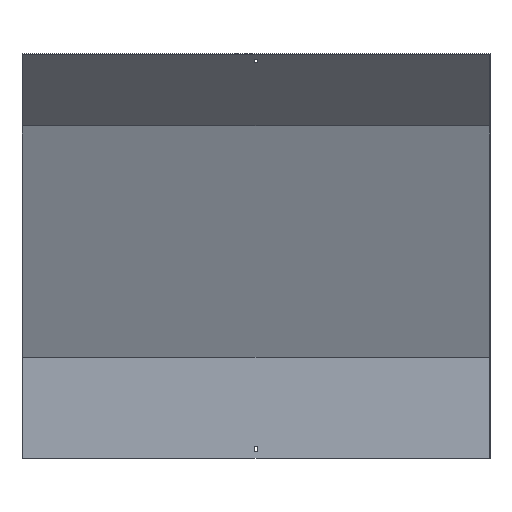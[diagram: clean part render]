
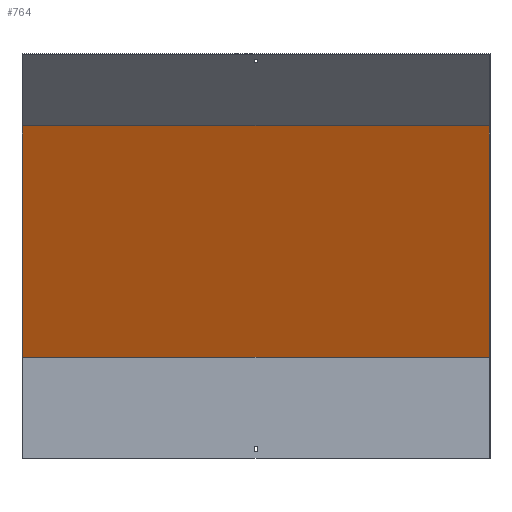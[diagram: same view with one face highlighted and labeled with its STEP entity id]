
A CAD part, front view. The second image highlights one B-rep face of the part: STEP entity #764.
In plain terms, the highlighted planar face has unit normal (0, -0.924, -0.383).
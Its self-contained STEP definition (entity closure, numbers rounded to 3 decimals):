
#8 = LINE ( 'NONE', #128, #486 ) ;
#48 = VERTEX_POINT ( 'NONE', #855 ) ;
#57 = LINE ( 'NONE', #393, #829 ) ;
#61 = VECTOR ( 'NONE', #281, 1000. ) ;
#128 = CARTESIAN_POINT ( 'NONE',  ( -400., 77.196, 31.976 ) ) ;
#143 = CARTESIAN_POINT ( 'NONE',  ( 400., 77.196, 31.976 ) ) ;
#157 = DIRECTION ( 'NONE',  ( 0., -0.383, 0.924 ) ) ;
#173 = EDGE_CURVE ( 'NONE', #410, #48, #551, .T. ) ;
#182 = ORIENTED_EDGE ( 'NONE', *, *, #763, .T. ) ;
#183 = AXIS2_PLACEMENT_3D ( 'NONE', #684, #204, #605 ) ;
#202 = CARTESIAN_POINT ( 'NONE',  ( -400., 18.5, 173.68 ) ) ;
#204 = DIRECTION ( 'NONE',  ( 0., -0.924, -0.383 ) ) ;
#281 = DIRECTION ( 'NONE',  ( -1., 0., 0. ) ) ;
#331 = DIRECTION ( 'NONE',  ( 0., -0.383, 0.924 ) ) ;
#347 = CARTESIAN_POINT ( 'NONE',  ( 400., 18.5, 173.68 ) ) ;
#364 = VERTEX_POINT ( 'NONE', #202 ) ;
#375 = ORIENTED_EDGE ( 'NONE', *, *, #644, .F. ) ;
#393 = CARTESIAN_POINT ( 'NONE',  ( 401.5, 18.5, 173.68 ) ) ;
#410 = VERTEX_POINT ( 'NONE', #533 ) ;
#412 = CARTESIAN_POINT ( 'NONE',  ( 401.5, -145.809, 570.357 ) ) ;
#417 = FACE_OUTER_BOUND ( 'NONE', #437, .T. ) ;
#421 = VERTEX_POINT ( 'NONE', #347 ) ;
#437 = EDGE_LOOP ( 'NONE', ( #800, #375, #182, #575 ) ) ;
#469 = PLANE ( 'NONE',  #183 ) ;
#473 = LINE ( 'NONE', #143, #487 ) ;
#486 = VECTOR ( 'NONE', #331, 1000. ) ;
#487 = VECTOR ( 'NONE', #157, 1000. ) ;
#533 = CARTESIAN_POINT ( 'NONE',  ( 400., -145.809, 570.357 ) ) ;
#551 = LINE ( 'NONE', #412, #61 ) ;
#575 = ORIENTED_EDGE ( 'NONE', *, *, #173, .T. ) ;
#605 = DIRECTION ( 'NONE',  ( 0., 0.383, -0.924 ) ) ;
#644 = EDGE_CURVE ( 'NONE', #421, #364, #57, .T. ) ;
#654 = DIRECTION ( 'NONE',  ( -1., 0., 0. ) ) ;
#656 = EDGE_CURVE ( 'NONE', #364, #48, #8, .T. ) ;
#684 = CARTESIAN_POINT ( 'NONE',  ( 401.5, 17.092, 177.08 ) ) ;
#763 = EDGE_CURVE ( 'NONE', #421, #410, #473, .T. ) ;
#764 = ADVANCED_FACE ( 'NONE', ( #417 ), #469, .T. ) ;
#800 = ORIENTED_EDGE ( 'NONE', *, *, #656, .F. ) ;
#829 = VECTOR ( 'NONE', #654, 1000. ) ;
#855 = CARTESIAN_POINT ( 'NONE',  ( -400., -145.809, 570.357 ) ) ;
